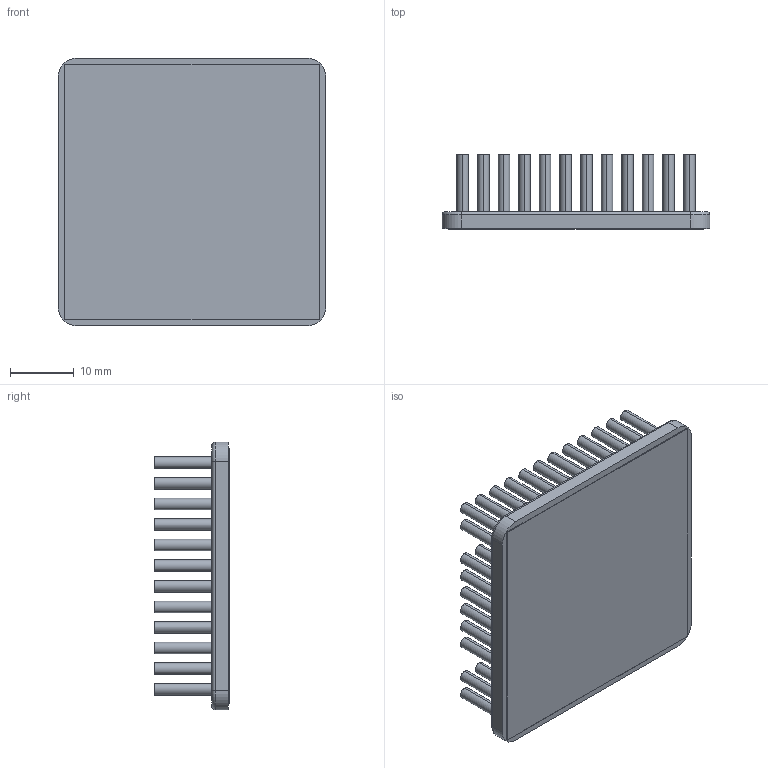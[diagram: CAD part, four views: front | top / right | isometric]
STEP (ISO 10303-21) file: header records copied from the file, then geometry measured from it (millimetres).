
FILE_DESCRIPTION (( 'STEP AP214' ), '1' );
FILE_NAME ('INM42.5002-12PCU-2.6.STEP', '2023-02-28T00:20:17', ( '' ), ( '' ), 'SwSTEP 2.0', 'SolidWorks 2020', '' );
FILE_SCHEMA (( 'AUTOMOTIVE_DESIGN' ));
Length unit declared in the file: inch
Products named in the file (1): INM42.5002-12PCU-2.6
Bounding box: 42.1 x 11.73 x 42.1 mm (x, y, z)
Volume: 7897.4 mm3; surface area: 14060.5 mm2
Topology: 2 solids, 2 shells, 432 faces, 868 edges, 576 vertices
Faces by surface type: cylinder 280, plane 148, torus 4
Entity records: 17199 total; most frequent: DIRECTION 2298, CARTESIAN_POINT 1877, ORIENTED_EDGE 1736, AXIS2_PLACEMENT_3D 997, EDGE_CURVE 868, VERTEX_POINT 576, EDGE_LOOP 568, CIRCLE 564
